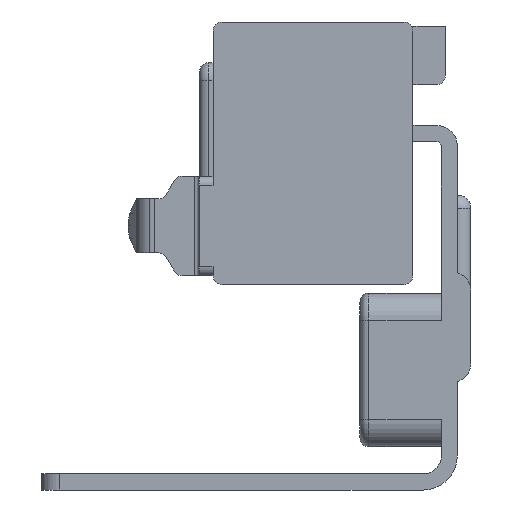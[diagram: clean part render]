
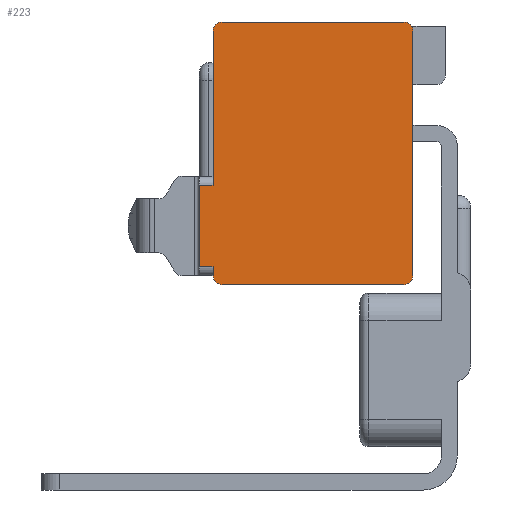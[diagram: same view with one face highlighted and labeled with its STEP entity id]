
A CAD part, left-side view. The second image highlights one B-rep face of the part: STEP entity #223.
In plain terms, the highlighted planar face has unit normal (-1, 0, 0).
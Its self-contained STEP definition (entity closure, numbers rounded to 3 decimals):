
#62 = ORIENTED_EDGE ( 'NONE', *, *, #6335, .F. ) ;
#105 = DIRECTION ( 'NONE',  ( 1., 0., 0. ) ) ;
#107 = VECTOR ( 'NONE', #1075, 1000. ) ;
#122 = CARTESIAN_POINT ( 'NONE',  ( -333., 28.5, 60.46 ) ) ;
#125 = DIRECTION ( 'NONE',  ( 0., -1., 0. ) ) ;
#162 = DIRECTION ( 'NONE',  ( 0., 1., 0. ) ) ;
#223 = ADVANCED_FACE ( 'NONE', ( #5471 ), #985, .F. ) ;
#261 = CARTESIAN_POINT ( 'NONE',  ( -333., 28.5, 70.46 ) ) ;
#368 = CARTESIAN_POINT ( 'NONE',  ( -333., 26., 59.46 ) ) ;
#399 = LINE ( 'NONE', #4788, #4717 ) ;
#410 = AXIS2_PLACEMENT_3D ( 'NONE', #2404, #6025, #2921 ) ;
#411 = EDGE_CURVE ( 'NONE', #2007, #6092, #6016, .T. ) ;
#526 = VERTEX_POINT ( 'NONE', #4268 ) ;
#528 = DIRECTION ( 'NONE',  ( 1., 0., 0. ) ) ;
#616 = ORIENTED_EDGE ( 'NONE', *, *, #2768, .F. ) ;
#618 = DIRECTION ( 'NONE',  ( 0., 0., -1. ) ) ;
#635 = EDGE_CURVE ( 'NONE', #4096, #1843, #399, .T. ) ;
#830 = VERTEX_POINT ( 'NONE', #4724 ) ;
#890 = DIRECTION ( 'NONE',  ( 0., 0., -1. ) ) ;
#925 = VECTOR ( 'NONE', #3120, 1000. ) ;
#936 = DIRECTION ( 'NONE',  ( 1., 0., 0. ) ) ;
#983 = LINE ( 'NONE', #2047, #6367 ) ;
#985 = PLANE ( 'NONE',  #2296 ) ;
#1075 = DIRECTION ( 'NONE',  ( 0., 0., 1. ) ) ;
#1102 = ORIENTED_EDGE ( 'NONE', *, *, #5173, .F. ) ;
#1106 = CARTESIAN_POINT ( 'NONE',  ( -333., 27., 87.49 ) ) ;
#1262 = CIRCLE ( 'NONE', #4697, 1. ) ;
#1603 = ORIENTED_EDGE ( 'NONE', *, *, #4983, .F. ) ;
#1751 = LINE ( 'NONE', #6533, #5567 ) ;
#1819 = VERTEX_POINT ( 'NONE', #6044 ) ;
#1821 = VECTOR ( 'NONE', #125, 1000. ) ;
#1843 = VERTEX_POINT ( 'NONE', #261 ) ;
#2007 = VERTEX_POINT ( 'NONE', #2993 ) ;
#2047 = CARTESIAN_POINT ( 'NONE',  ( -333., 27., 87.49 ) ) ;
#2051 = VERTEX_POINT ( 'NONE', #368 ) ;
#2072 = CARTESIAN_POINT ( 'NONE',  ( -333., 26., 60.46 ) ) ;
#2076 = EDGE_LOOP ( 'NONE', ( #3233, #4272, #5010, #5649, #6218, #62, #616, #1102, #1603, #2177, #3316, #3865 ) ) ;
#2177 = ORIENTED_EDGE ( 'NONE', *, *, #5475, .F. ) ;
#2296 = AXIS2_PLACEMENT_3D ( 'NONE', #122, #528, #618 ) ;
#2404 = CARTESIAN_POINT ( 'NONE',  ( -333., 5.9, 60.46 ) ) ;
#2495 = LINE ( 'NONE', #2610, #925 ) ;
#2596 = DIRECTION ( 'NONE',  ( 0., 1., 0. ) ) ;
#2610 = CARTESIAN_POINT ( 'NONE',  ( -333., 5.9, 59.46 ) ) ;
#2626 = CARTESIAN_POINT ( 'NONE',  ( -333., 5.9, 88.49 ) ) ;
#2639 = DIRECTION ( 'NONE',  ( 0., 1., 0. ) ) ;
#2647 = EDGE_CURVE ( 'NONE', #1843, #5154, #6284, .T. ) ;
#2707 = CARTESIAN_POINT ( 'NONE',  ( -333., 27., 61.46 ) ) ;
#2715 = CARTESIAN_POINT ( 'NONE',  ( -333., 28.5, 61.46 ) ) ;
#2768 = EDGE_CURVE ( 'NONE', #830, #5334, #983, .T. ) ;
#2895 = CIRCLE ( 'NONE', #5552, 1. ) ;
#2921 = DIRECTION ( 'NONE',  ( 0., 1., 0. ) ) ;
#2993 = CARTESIAN_POINT ( 'NONE',  ( -333., 27., 87.49 ) ) ;
#3042 = VERTEX_POINT ( 'NONE', #3479 ) ;
#3060 = VERTEX_POINT ( 'NONE', #2626 ) ;
#3120 = DIRECTION ( 'NONE',  ( 0., 1., 0. ) ) ;
#3233 = ORIENTED_EDGE ( 'NONE', *, *, #6515, .F. ) ;
#3316 = ORIENTED_EDGE ( 'NONE', *, *, #6616, .F. ) ;
#3479 = CARTESIAN_POINT ( 'NONE',  ( -333., 5.9, 59.46 ) ) ;
#3492 = CARTESIAN_POINT ( 'NONE',  ( -333., 4.9, 60.46 ) ) ;
#3576 = CARTESIAN_POINT ( 'NONE',  ( -333., 27., 70.46 ) ) ;
#3645 = EDGE_CURVE ( 'NONE', #5154, #2007, #5316, .T. ) ;
#3865 = ORIENTED_EDGE ( 'NONE', *, *, #6183, .F. ) ;
#3931 = LINE ( 'NONE', #5748, #5341 ) ;
#4045 = CARTESIAN_POINT ( 'NONE',  ( -333., 5.9, 87.49 ) ) ;
#4096 = VERTEX_POINT ( 'NONE', #2715 ) ;
#4268 = CARTESIAN_POINT ( 'NONE',  ( -333., 4.9, 60.46 ) ) ;
#4272 = ORIENTED_EDGE ( 'NONE', *, *, #411, .F. ) ;
#4276 = DIRECTION ( 'NONE',  ( 0., 0., 1. ) ) ;
#4473 = CARTESIAN_POINT ( 'NONE',  ( -333., 26., 88.49 ) ) ;
#4476 = DIRECTION ( 'NONE',  ( 0., -1., 0. ) ) ;
#4586 = DIRECTION ( 'NONE',  ( 0., 1., 0. ) ) ;
#4652 = CARTESIAN_POINT ( 'NONE',  ( -333., 26., 87.49 ) ) ;
#4697 = AXIS2_PLACEMENT_3D ( 'NONE', #4045, #936, #4586 ) ;
#4717 = VECTOR ( 'NONE', #5363, 1000. ) ;
#4724 = CARTESIAN_POINT ( 'NONE',  ( -333., 27., 60.46 ) ) ;
#4788 = CARTESIAN_POINT ( 'NONE',  ( -333., 28.5, 60.46 ) ) ;
#4983 = EDGE_CURVE ( 'NONE', #3042, #2051, #2495, .T. ) ;
#5010 = ORIENTED_EDGE ( 'NONE', *, *, #3645, .F. ) ;
#5154 = VERTEX_POINT ( 'NONE', #3576 ) ;
#5173 = EDGE_CURVE ( 'NONE', #2051, #830, #2895, .T. ) ;
#5259 = CARTESIAN_POINT ( 'NONE',  ( -333., 28.5, 70.46 ) ) ;
#5316 = LINE ( 'NONE', #1106, #107 ) ;
#5334 = VERTEX_POINT ( 'NONE', #2707 ) ;
#5341 = VECTOR ( 'NONE', #2639, 1000. ) ;
#5359 = CIRCLE ( 'NONE', #410, 1. ) ;
#5363 = DIRECTION ( 'NONE',  ( 0., 0., 1. ) ) ;
#5471 = FACE_OUTER_BOUND ( 'NONE', #2076, .T. ) ;
#5475 = EDGE_CURVE ( 'NONE', #526, #3042, #5359, .T. ) ;
#5552 = AXIS2_PLACEMENT_3D ( 'NONE', #2072, #5694, #2596 ) ;
#5567 = VECTOR ( 'NONE', #4476, 1000. ) ;
#5649 = ORIENTED_EDGE ( 'NONE', *, *, #2647, .F. ) ;
#5694 = DIRECTION ( 'NONE',  ( 1., 0., 0. ) ) ;
#5748 = CARTESIAN_POINT ( 'NONE',  ( -333., 28.5, 61.46 ) ) ;
#6016 = CIRCLE ( 'NONE', #6110, 1. ) ;
#6025 = DIRECTION ( 'NONE',  ( 1., 0., 0. ) ) ;
#6044 = CARTESIAN_POINT ( 'NONE',  ( -333., 4.9, 87.49 ) ) ;
#6092 = VERTEX_POINT ( 'NONE', #4473 ) ;
#6110 = AXIS2_PLACEMENT_3D ( 'NONE', #4652, #105, #162 ) ;
#6183 = EDGE_CURVE ( 'NONE', #3060, #1819, #1262, .T. ) ;
#6218 = ORIENTED_EDGE ( 'NONE', *, *, #635, .F. ) ;
#6284 = LINE ( 'NONE', #5259, #1821 ) ;
#6335 = EDGE_CURVE ( 'NONE', #5334, #4096, #3931, .T. ) ;
#6367 = VECTOR ( 'NONE', #4276, 1000. ) ;
#6456 = VECTOR ( 'NONE', #890, 1000. ) ;
#6515 = EDGE_CURVE ( 'NONE', #6092, #3060, #1751, .T. ) ;
#6533 = CARTESIAN_POINT ( 'NONE',  ( -333., 5.9, 88.49 ) ) ;
#6606 = LINE ( 'NONE', #3492, #6456 ) ;
#6616 = EDGE_CURVE ( 'NONE', #1819, #526, #6606, .T. ) ;
